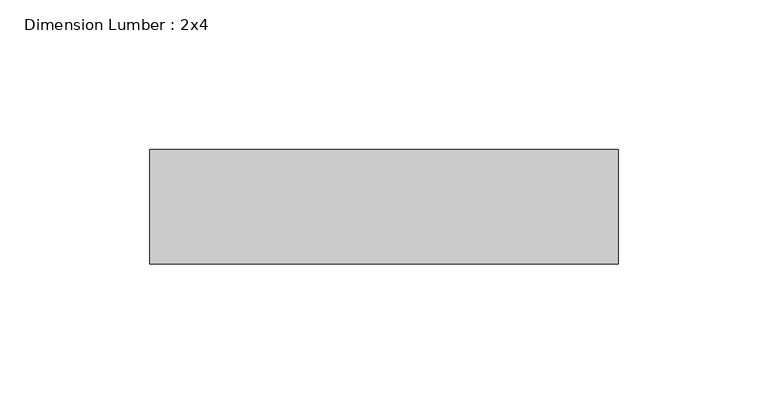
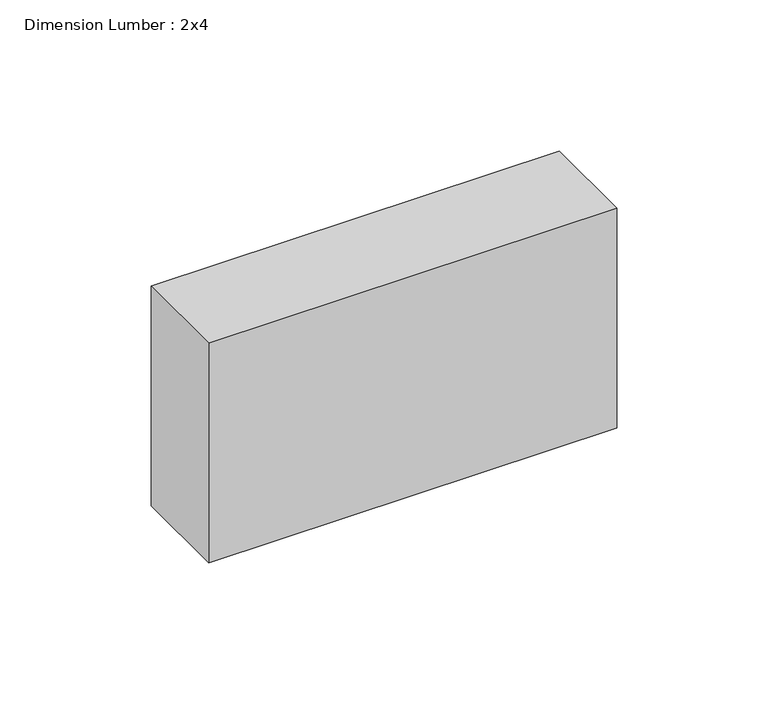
"""IFC4 building model written with IfcOpenShell, lengths in millimetres: beam geometry, Dimension Lumber : 2x4."""

import ifcopenshell
import ifcopenshell.guid

model = None  # the IFC model being written
_history = None  # IfcOwnerHistory: only IFC2X3 demands one
_inside = {}  # id of a spatial element -> (the spatial element, [elements in it])
_under = {}  # id of a project, library or spatial element -> (it, [spatial elements below it])
_declared = {}  # id of a project -> (the project, [libraries it declares])
_typed = {}  # id of a type object -> (the type object, [elements of that type])
_made_of = {}  # id of a material, layer set ... -> (it, [elements and type objects made of it])


def new_model(schema):
    """Start an empty IFC model of exactly this schema.

    Asked for "IFC4X3", IfcOpenShell would pick the latest addendum, in which some entities
    have other attributes; the version numbers below select the first issue.
    IFC2X3 requires an IfcOwnerHistory on every rooted entity: one is made here for all.
    """
    global model, _history
    if schema == "IFC4X3":
        model = ifcopenshell.file(schema_version=(4, 3, 0, 0))
    else:
        model = ifcopenshell.file(schema=schema)
    _inside.clear()
    _under.clear()
    _declared.clear()
    _typed.clear()
    _made_of.clear()
    _history = None
    if model.schema == "IFC2X3":
        org = make("IfcOrganization", Name="unknown")
        user = make(
            "IfcPersonAndOrganization",
            ThePerson=make("IfcPerson", FamilyName="unknown"),
            TheOrganization=org,
        )
        app = make(
            "IfcApplication",
            ApplicationDeveloper=org,
            Version="unknown",
            ApplicationFullName="unknown",
            ApplicationIdentifier="unknown",
        )
        _history = make(
            "IfcOwnerHistory",
            OwningUser=user,
            OwningApplication=app,
            ChangeAction="ADDED",
            CreationDate=0,
        )
    return model


def make(cls, **values):
    """One entity of the class cls with the attributes given. An attribute that is None is left unset."""
    return model.create_entity(
        cls, **{name: value for name, value in values.items() if value is not None}
    )


def rooted(cls, **values):
    """An entity with a GlobalId (a new one), such as an element, a storey or a relation."""
    return make(cls, GlobalId=ifcopenshell.guid.new(), OwnerHistory=_history, **values)


def si_unit(unit_type, name, prefix=None):
    """IfcSIUnit, for example si_unit("LENGTHUNIT", "METRE", prefix="MILLI")."""
    return make("IfcSIUnit", UnitType=unit_type, Prefix=prefix, Name=name)


def assignment(units):
    """IfcUnitAssignment: the units of a project."""
    return None if units is None else make("IfcUnitAssignment", Units=units)


def point(xyz):
    """IfcCartesianPoint."""
    return None if xyz is None else make("IfcCartesianPoint", Coordinates=xyz)


def direction(xyz):
    """IfcDirection."""
    return None if xyz is None else make("IfcDirection", DirectionRatios=xyz)


def frame(location, z_axis=None, x_axis=None):
    """IfcAxis2Placement3D, a coordinate frame: its origin and axes. An axis left out is left unset."""
    return make(
        "IfcAxis2Placement3D",
        Location=point(location),
        Axis=direction(z_axis),
        RefDirection=direction(x_axis),
    )


def origin():
    """The frame at (0, 0, 0) with its axes left unset."""
    return frame((0.0, 0.0, 0.0))


def place(relative_to, where):
    """IfcLocalPlacement: puts the frame where relative to a parent placement (None: the world)."""
    return make(
        "IfcLocalPlacement", PlacementRelTo=relative_to, RelativePlacement=where
    )


def context(
    kind, dimensions, precision=None, world=None, true_north=None, identifier=None
):
    """IfcGeometricRepresentationContext, for example the 3D "Model" context."""
    return make(
        "IfcGeometricRepresentationContext",
        ContextIdentifier=identifier,
        ContextType=kind,
        CoordinateSpaceDimension=dimensions,
        Precision=precision,
        WorldCoordinateSystem=world,
        TrueNorth=true_north,
    )


def project(units=None, contexts=None):
    """IfcProject with its units and contexts."""
    return rooted(
        "IfcProject",
        Name="project",
        RepresentationContexts=contexts,
        UnitsInContext=assignment(units),
    )


def spatial(cls, under=None, at=None, **own):
    """A site, building, storey or space (cls), placed at a placement, below another one or the project."""
    s = rooted(cls, ObjectPlacement=at, **own)
    if under is not None:
        _under.setdefault(under.id(), (under, []))[1].append(s)
    return s


def polyline(points):
    """IfcPolyline through the points."""
    return make("IfcPolyline", Points=[point(p) for p in points])


def outline(outer, holes=None, kind="AREA"):
    """IfcArbitraryClosedProfileDef: a profile drawn as a closed curve; with holes, ...WithVoids."""
    if holes is None:
        return make("IfcArbitraryClosedProfileDef", ProfileType=kind, OuterCurve=outer)
    return make(
        "IfcArbitraryProfileDefWithVoids",
        ProfileType=kind,
        OuterCurve=outer,
        InnerCurves=holes,
    )


def extrude(swept, where, along, depth):
    """IfcExtrudedAreaSolid: the profile swept, set in the frame where, extruded along a direction by depth."""
    return make(
        "IfcExtrudedAreaSolid",
        SweptArea=swept,
        Position=where,
        ExtrudedDirection=direction(along),
        Depth=depth,
    )


def shape(context_of_items, identifier, shape_type, items):
    """IfcShapeRepresentation: the items that make up one representation, for example the "Body"."""
    return make(
        "IfcShapeRepresentation",
        ContextOfItems=context_of_items,
        RepresentationIdentifier=identifier,
        RepresentationType=shape_type,
        Items=items,
    )


def source(mapping_origin, context_of_items, identifier, shape_type, items):
    """IfcRepresentationMap: a shape defined once, which mapped items show again and again."""
    return make(
        "IfcRepresentationMap",
        MappingOrigin=mapping_origin,
        MappedRepresentation=shape(context_of_items, identifier, shape_type, items),
    )


def transform(
    local_origin,
    x_axis=None,
    y_axis=None,
    z_axis=None,
    scale=None,
    scale2=None,
    scale3=None,
    uniform=True,
):
    """IfcCartesianTransformationOperator3D, or its non-uniform kind. x_axis, y_axis, z_axis: its Axis1, 2, 3."""
    if uniform:
        return make(
            "IfcCartesianTransformationOperator3D",
            Axis1=direction(x_axis),
            Axis2=direction(y_axis),
            LocalOrigin=point(local_origin),
            Scale=scale,
            Axis3=direction(z_axis),
        )
    return make(
        "IfcCartesianTransformationOperator3DnonUniform",
        Axis1=direction(x_axis),
        Axis2=direction(y_axis),
        LocalOrigin=point(local_origin),
        Scale=scale,
        Axis3=direction(z_axis),
        Scale2=scale2,
        Scale3=scale3,
    )


def mapped(mapping_source, mapping_target):
    """IfcMappedItem: shows the shape of a source again, moved by a transform."""
    return make(
        "IfcMappedItem", MappingSource=mapping_source, MappingTarget=mapping_target
    )


def made_of(thing, what):
    """Note that an element or type object is made of a material, layer set ...; save() writes the relation."""
    if what is not None:
        _made_of.setdefault(what.id(), (what, []))[1].append(thing)
    return thing


def element(
    cls,
    number,
    at=None,
    inside=None,
    cuts=None,
    type_object=None,
    material=None,
    context=None,
    identifier="Body",
    shape_type=None,
    held_by="IfcProductDefinitionShape",
    body=None,
    shapes=None,
    **own,
):
    """One element of the class cls, such as IfcWall. Its Tag is "e" and its number.

    at: its placement. inside: the storey or other place that contains it. cuts: it is an
    opening in that element (IfcRelVoidsElement). A single representation is given by context,
    identifier, shape_type and body (its items); several are given by shapes. held_by: the class
    of the entity that holds the representations. save() writes the other relations.
    """
    e = rooted(cls, Tag="e%d" % number, ObjectPlacement=at, **own)
    if body is not None:
        shapes = [shape(context, identifier, shape_type, body)]
    if shapes is not None:
        e.Representation = make(held_by, Representations=shapes)
    if inside is not None:
        _inside.setdefault(inside.id(), (inside, []))[1].append(e)
    if cuts is not None:
        rooted(
            "IfcRelVoidsElement", RelatingBuildingElement=cuts, RelatedOpeningElement=e
        )
    if type_object is not None:
        _typed.setdefault(type_object.id(), (type_object, []))[1].append(e)
    return made_of(e, material)


def aggregate(whole, parts):
    """IfcRelAggregates: a whole, such as a stair, and the parts it consists of."""
    return rooted("IfcRelAggregates", RelatingObject=whole, RelatedObjects=parts)


def save(model, path):
    """Write the relations noted so far, then the file.

    IfcRelAggregates (storeys below a building ...), IfcRelContainedInSpatialStructure (elements
    in a storey), IfcRelDefinesByType, IfcRelAssociatesMaterial and IfcRelDeclares: one each for
    every whole, place, type object, material and project.
    """
    for whole, parts in _under.values():
        aggregate(whole, parts)
    for where, things in _inside.values():
        rooted(
            "IfcRelContainedInSpatialStructure",
            RelatedElements=things,
            RelatingStructure=where,
        )
    for kind, things in _typed.values():
        rooted("IfcRelDefinesByType", RelatedObjects=things, RelatingType=kind)
    for what, things in _made_of.values():
        rooted("IfcRelAssociatesMaterial", RelatedObjects=things, RelatingMaterial=what)
    for by, libraries in _declared.values():
        rooted("IfcRelDeclares", RelatingContext=by, RelatedDefinitions=libraries)
    model.write(path)


def dimension_lumber_2x4_95043a99(model_context):
    return source(origin(), model_context, "Body", "SweptSolid", [
        extrude(outline(polyline([(78.0520833, 19.05), (78.0520833, -19.05), (-78.0520833, -19.05), (-78.0520833, 19.05), (78.0520833, 19.05)])), frame((0.0, 0.0, -44.45), z_axis=(0.0, 0.0, 1.0), x_axis=(1.0, 0.0, 0.0)), (0.0, 0.0, 1.0), 88.9),
    ])


if __name__ == "__main__":
    model = new_model("IFC4")
    model_context = context("Model", 3, world=origin())
    ifc_project = project(units=[si_unit("LENGTHUNIT", "METRE", prefix="MILLI")], contexts=[model_context])
    site = spatial("IfcSite", under=ifc_project)
    building = spatial("IfcBuilding", under=site)
    placement = place(None, origin())
    dimension_lumber_2x4_shape = dimension_lumber_2x4_95043a99(model_context)
    element("IfcBeam", 1, ObjectType="Dimension Lumber : 2x4", at=placement, inside=building, context=model_context, shape_type="MappedRepresentation", body=[
        mapped(dimension_lumber_2x4_shape, transform((0.0, 0.0, 0.0), x_axis=(1.0, 0.0, 0.0), y_axis=(0.0, 1.0, 0.0), z_axis=(0.0, 0.0, 1.0))),
    ])
    save(model, "model.ifc")
